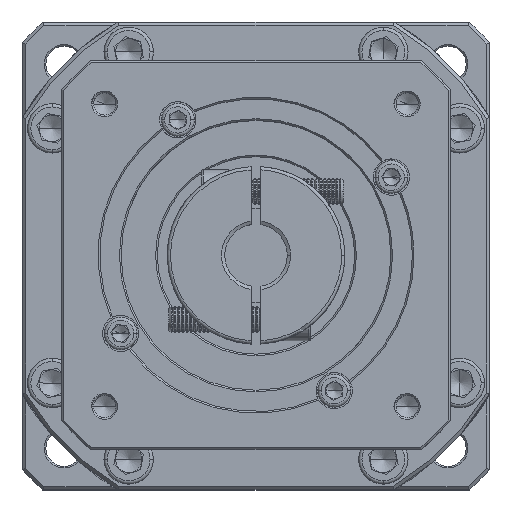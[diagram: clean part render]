
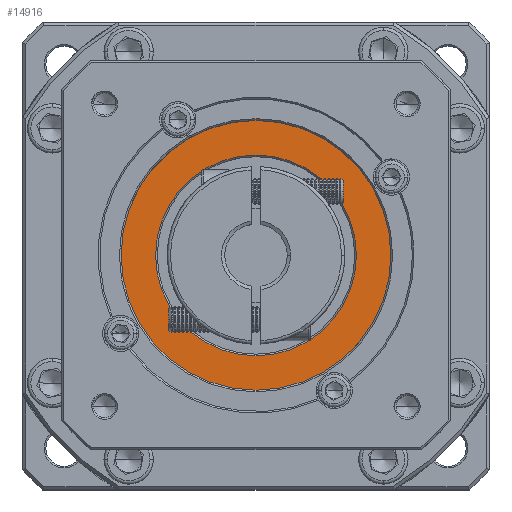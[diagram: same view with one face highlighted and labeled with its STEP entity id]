
A CAD part, top view. The second image highlights one B-rep face of the part: STEP entity #14916.
In plain terms, the highlighted planar face has unit normal (0, 0, 1).
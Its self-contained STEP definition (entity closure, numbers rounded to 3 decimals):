
#419 = EDGE_CURVE ( 'NONE', #22941, #75736, #49449, .T. ) ;
#3006 = CARTESIAN_POINT ( 'NONE',  ( -84.154, 139.769, -50.671 ) ) ;
#10915 = CIRCLE ( 'NONE', #75288, 30.5 ) ;
#11450 = DIRECTION ( 'NONE',  ( 0., 0., 1. ) ) ;
#14916 = ADVANCED_FACE ( 'NONE', ( #28979, #126139 ), #123371, .T. ) ;
#21630 = DIRECTION ( 'NONE',  ( 0., -1., 0. ) ) ;
#22262 = CARTESIAN_POINT ( 'NONE',  ( -43.154, 109.269, -50.671 ) ) ;
#22941 = VERTEX_POINT ( 'NONE', #22262 ) ;
#25823 = DIRECTION ( 'NONE',  ( 0., 0., -1. ) ) ;
#27825 = VERTEX_POINT ( 'NONE', #36401 ) ;
#28979 = FACE_OUTER_BOUND ( 'NONE', #37737, .T. ) ;
#30129 = EDGE_CURVE ( 'NONE', #27825, #114050, #10915, .T. ) ;
#30130 = DIRECTION ( 'NONE',  ( 0., 0., 1. ) ) ;
#30577 = EDGE_CURVE ( 'NONE', #75736, #22941, #74097, .T. ) ;
#33322 = DIRECTION ( 'NONE',  ( 0., 0., 1. ) ) ;
#34096 = CARTESIAN_POINT ( 'NONE',  ( -84.154, 109.269, -50.671 ) ) ;
#36401 = CARTESIAN_POINT ( 'NONE',  ( -84.154, 78.769, -50.671 ) ) ;
#37737 = EDGE_LOOP ( 'NONE', ( #122967, #125247 ) ) ;
#39499 = ORIENTED_EDGE ( 'NONE', *, *, #30129, .T. ) ;
#48887 = CARTESIAN_POINT ( 'NONE',  ( -84.154, 109.269, -50.671 ) ) ;
#49449 = CIRCLE ( 'NONE', #73001, 41. ) ;
#49986 = AXIS2_PLACEMENT_3D ( 'NONE', #48887, #25823, #106700 ) ;
#51882 = AXIS2_PLACEMENT_3D ( 'NONE', #34096, #11450, #122338 ) ;
#54225 = CARTESIAN_POINT ( 'NONE',  ( -84.154, 109.269, -50.671 ) ) ;
#56532 = DIRECTION ( 'NONE',  ( 0., 0., -1. ) ) ;
#58184 = AXIS2_PLACEMENT_3D ( 'NONE', #54225, #30130, #143644 ) ;
#63746 = EDGE_CURVE ( 'NONE', #114050, #27825, #141209, .T. ) ;
#73001 = AXIS2_PLACEMENT_3D ( 'NONE', #112230, #33322, #90519 ) ;
#74097 = CIRCLE ( 'NONE', #58184, 41. ) ;
#75288 = AXIS2_PLACEMENT_3D ( 'NONE', #100129, #56532, #21630 ) ;
#75736 = VERTEX_POINT ( 'NONE', #103268 ) ;
#90519 = DIRECTION ( 'NONE',  ( 1., 0., 0. ) ) ;
#100129 = CARTESIAN_POINT ( 'NONE',  ( -84.154, 109.269, -50.671 ) ) ;
#101742 = ORIENTED_EDGE ( 'NONE', *, *, #63746, .T. ) ;
#103268 = CARTESIAN_POINT ( 'NONE',  ( -125.154, 109.269, -50.671 ) ) ;
#106700 = DIRECTION ( 'NONE',  ( 0., -1., 0. ) ) ;
#112230 = CARTESIAN_POINT ( 'NONE',  ( -84.154, 109.269, -50.671 ) ) ;
#114050 = VERTEX_POINT ( 'NONE', #3006 ) ;
#118855 = EDGE_LOOP ( 'NONE', ( #39499, #101742 ) ) ;
#122338 = DIRECTION ( 'NONE',  ( 1., 0., 0. ) ) ;
#122967 = ORIENTED_EDGE ( 'NONE', *, *, #419, .T. ) ;
#123371 = PLANE ( 'NONE',  #51882 ) ;
#125247 = ORIENTED_EDGE ( 'NONE', *, *, #30577, .T. ) ;
#126139 = FACE_BOUND ( 'NONE', #118855, .T. ) ;
#141209 = CIRCLE ( 'NONE', #49986, 30.5 ) ;
#143644 = DIRECTION ( 'NONE',  ( 1., 0., 0. ) ) ;
